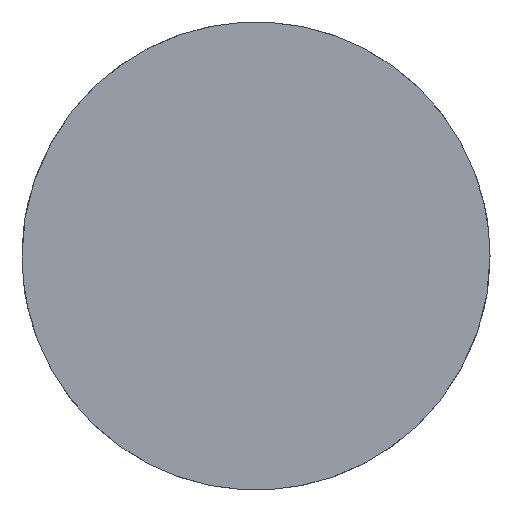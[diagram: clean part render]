
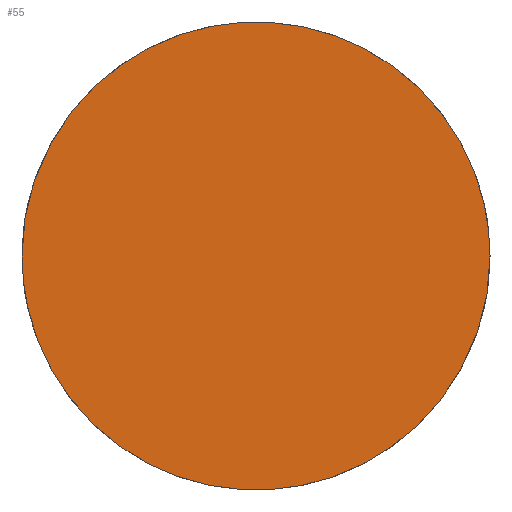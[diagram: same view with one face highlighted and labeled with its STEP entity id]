
A CAD part, top view. The second image highlights one B-rep face of the part: STEP entity #55.
In plain terms, the highlighted planar face has unit normal (0, 0, 1).
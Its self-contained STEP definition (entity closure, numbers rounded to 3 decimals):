
#55=ADVANCED_FACE($,(#73),#240,.T.);
#73=FACE_OUTER_BOUND($,#91,.T.);
#91=EDGE_LOOP($,(#112,#113));
#112=ORIENTED_EDGE($,*,*,#184,.F.);
#113=ORIENTED_EDGE($,*,*,#180,.F.);
#180=EDGE_CURVE($,#216,#218,#284,.T.);
#184=EDGE_CURVE($,#218,#216,#286,.T.);
#216=VERTEX_POINT($,#475);
#218=VERTEX_POINT($,#477);
#240=PLANE($,#388);
#284=(
BOUNDED_CURVE()
B_SPLINE_CURVE(2,(#429,#430,#431,#432,#433),.UNSPECIFIED.,.F.,.F.)
B_SPLINE_CURVE_WITH_KNOTS((3,2,3),(0.,942.478,1884.956),
.UNSPECIFIED.)
CURVE()
GEOMETRIC_REPRESENTATION_ITEM()
RATIONAL_B_SPLINE_CURVE((1.,0.707,1.,0.707,1.))
REPRESENTATION_ITEM($)
);
#286=(
BOUNDED_CURVE()
B_SPLINE_CURVE(2,(#443,#444,#445,#446,#447),.UNSPECIFIED.,.F.,.F.)
B_SPLINE_CURVE_WITH_KNOTS((3,2,3),(1884.956,2827.433,3769.911),
.UNSPECIFIED.)
CURVE()
GEOMETRIC_REPRESENTATION_ITEM()
RATIONAL_B_SPLINE_CURVE((1.,0.707,1.,0.707,1.))
REPRESENTATION_ITEM($)
);
#388=AXIS2_PLACEMENT_3D($,#463,#404,$);
#404=DIRECTION($,(0.,0.,1.));
#429=CARTESIAN_POINT($,(5761.302,549.005,15.));
#430=CARTESIAN_POINT($,(5761.302,-50.995,15.));
#431=CARTESIAN_POINT($,(5161.302,-50.995,15.));
#432=CARTESIAN_POINT($,(4561.302,-50.995,15.));
#433=CARTESIAN_POINT($,(4561.302,549.005,15.));
#443=CARTESIAN_POINT($,(4561.302,549.005,15.));
#444=CARTESIAN_POINT($,(4561.302,1149.005,15.));
#445=CARTESIAN_POINT($,(5161.302,1149.005,15.));
#446=CARTESIAN_POINT($,(5761.302,1149.005,15.));
#447=CARTESIAN_POINT($,(5761.302,549.005,15.));
#463=CARTESIAN_POINT($,(4561.302,-50.995,15.));
#475=CARTESIAN_POINT($,(5761.302,549.005,15.));
#477=CARTESIAN_POINT($,(4561.302,549.005,15.));
